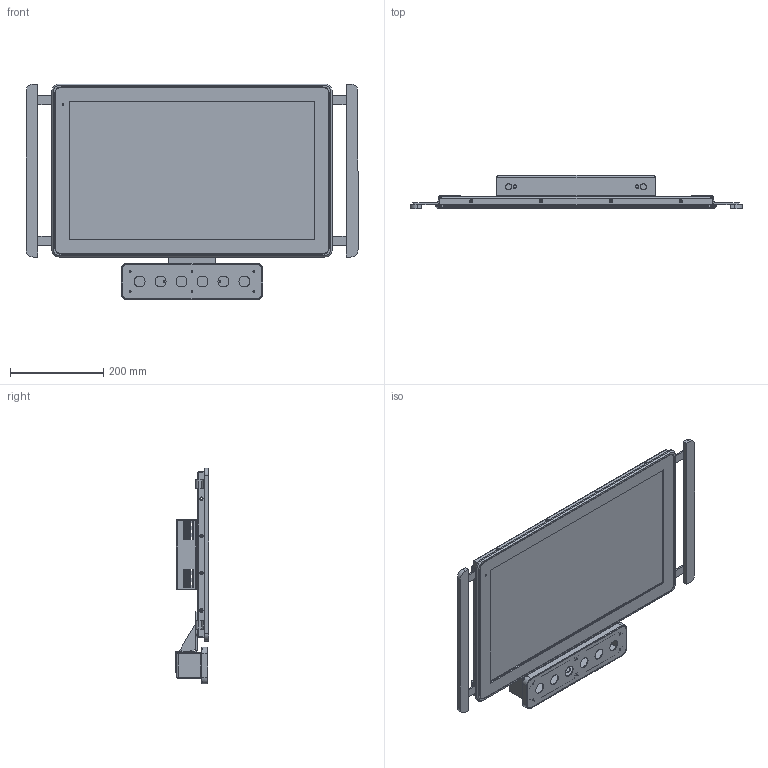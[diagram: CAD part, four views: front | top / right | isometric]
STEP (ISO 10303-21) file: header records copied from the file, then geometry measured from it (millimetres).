
FILE_DESCRIPTION (( 'STEP AP203' ), '1' );
FILE_NAME ('506-02205.STEP', '2025-02-18T15:53:06', ( 'Proprietaire' ), ( '' ), 'SwSTEP 2.0', 'SolidWorks 2022', '' );
FILE_SCHEMA (( 'CONFIG_CONTROL_DESIGN' ));
Length unit declared in the file: millimetre
Products named in the file (1): 506-02205
Bounding box: 712.44 x 72.9 x 463.05 mm (x, y, z)
Volume: 2406434.5 mm3; surface area: 1394821.8 mm2
Topology: 5 solids, 5 shells, 1711 faces, 4662 edges, 2999 vertices
Faces by surface type: plane 879, cylinder 728, cone 72, bspline 32
Full cylindrical faces by diameter (mm): 2.705 x30, 3 x1, 3.175 x8, 3.4 x6, 3.5 x6, 3.6 x4, 3.658 x2, 3.797 x58, 4.216 x2, 4.305 x2, 4.762 x2, 4.763 x42, 5.4 x4, 6 x2, 11.989 x1, 23.5 x6
Entity records: 54586 total; most frequent: CARTESIAN_POINT 10611, DIRECTION 9119, ORIENTED_EDGE 8702, EDGE_CURVE 4351, AXIS2_PLACEMENT_3D 3164, VERTEX_POINT 2920, LINE 2791, VECTOR 2791
